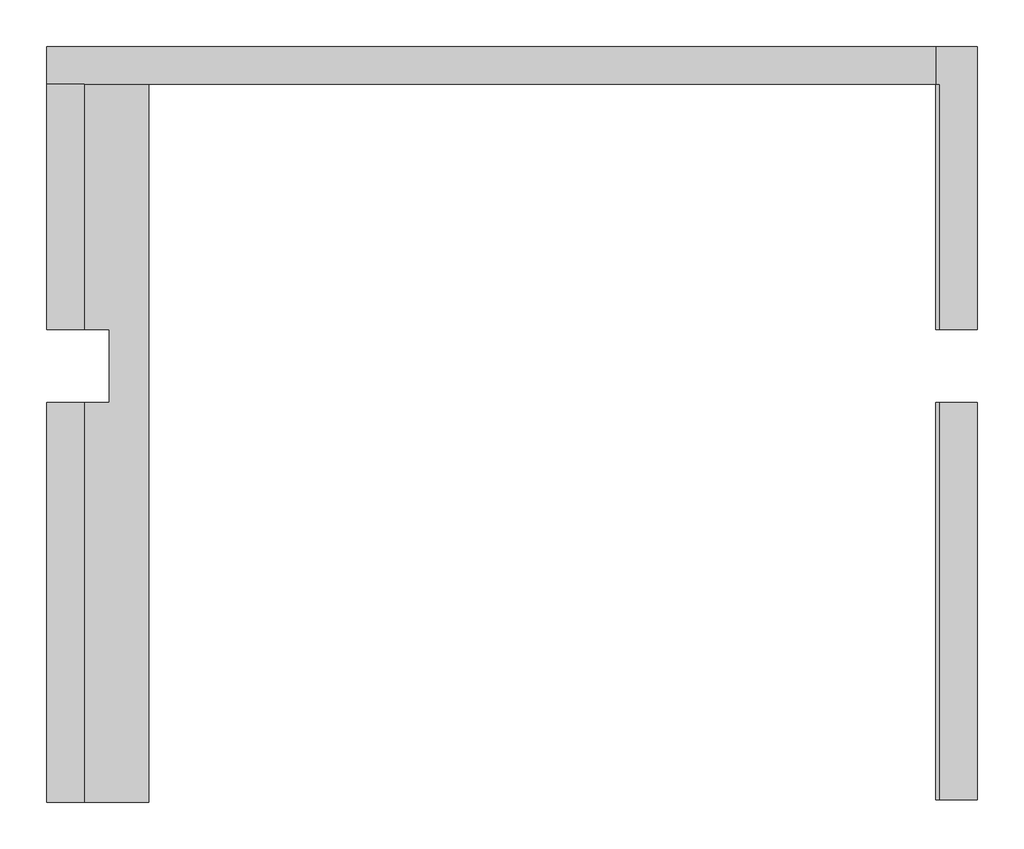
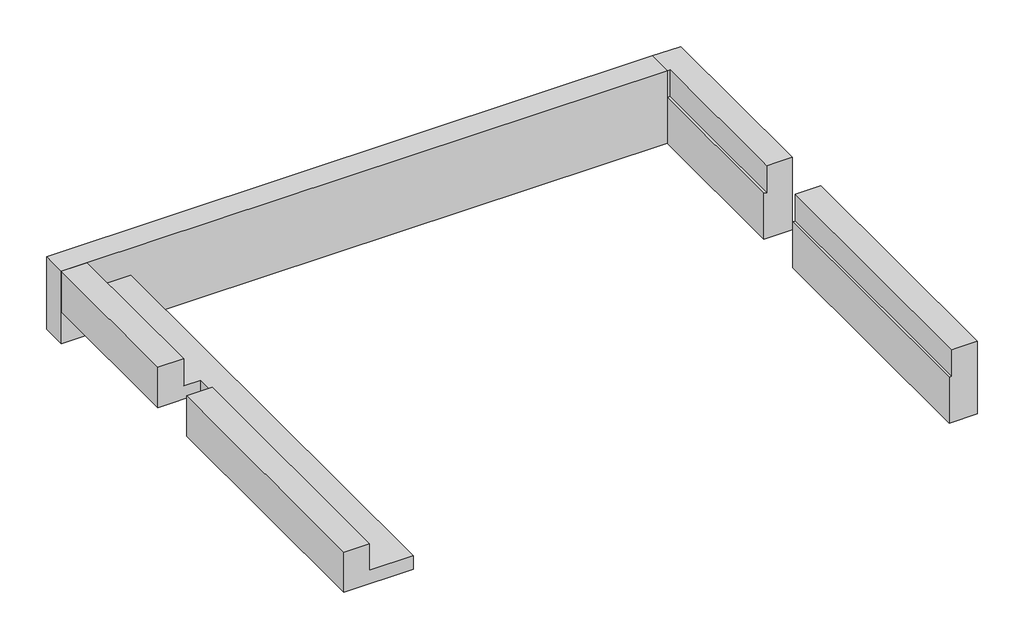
# One storey: 3 beams.
"""IFC4 building model written with IfcOpenShell, lengths in millimetres."""

from ifc_helpers import new_model, si_unit, origin, place, context, project, spatial, faceted_brep, element, save

model = new_model("IFC4")

# Units and contexts
model_context = context("Model", 3, world=origin())
ifc_project = project(units=[si_unit("LENGTHUNIT", "METRE", prefix="MILLI")], contexts=[model_context])

# Site, building, storey
site = spatial("IfcSite", under=ifc_project)
building = spatial("IfcBuilding", under=site)
storey = spatial("IfcBuildingStorey", under=building, Name="Niv +2", Elevation=5400.0)

# Beams
placement = place(None, origin())
element("IfcBeam", 1, ObjectType="FREYS POUTRE BETON : -FREYS béton 30*49 C 35/45", at=placement, inside=storey, context=model_context, shape_type="Brep", body=[
    faceted_brep([(-22905.443151, 6426.3702418, 2700.0), (-22725.443151, 6426.3702418, 2700.0), (-22725.443151, 8346.3428728, 2700.0), (-22905.443151, 8346.3428728, 2700.0), (-22415.443151, 6426.3702418, 2500.0), (-22415.443151, 6426.3702418, 2400.0), (-22415.443151, 9876.3428653, 2400.0), (-22415.443151, 9876.3428653, 2500.0), (-22905.443151, 6426.3702418, 2400.0), (-22905.443151, 8346.3428728, 2400.0), (-22605.3743903, 8346.3428728, 2400.0), (-22605.3743903, 8696.3428728, 2400.0), (-22905.443151, 8696.3428728, 2400.0), (-22905.443151, 9876.3428653, 2400.0), (-22905.443151, 6426.3702418, 2490.0), (-22905.443151, 6426.3702418, 2670.0), (-22725.443151, 6426.3702418, 2500.0), (-22725.443151, 9876.3428653, 2500.0), (-22725.443151, 8696.3428728, 2500.0), (-22605.3743903, 8696.3428728, 2500.0), (-22605.3743903, 8346.3428728, 2500.0), (-22725.443151, 8346.3428728, 2500.0), (-22725.443151, 8696.3428728, 2700.0), (-22905.443151, 8696.3428728, 2700.0), (-22725.443151, 9876.3428653, 2700.0), (-22905.443151, 9876.3428653, 2700.0)], [[[0, 1, 2, 3]], [[4, 5, 6, 7]], [[5, 8, 9, 10, 11, 12, 13, 6]], [[8, 14, 15, 0, 3, 9]], [[8, 5, 4, 16, 1, 0, 15, 14]], [[4, 7, 17, 18, 19, 20, 21, 16]], [[1, 16, 21, 2]], [[3, 2, 21, 20, 10, 9]], [[22, 23, 12, 11, 19, 18]], [[24, 22, 18, 17]], [[19, 11, 10, 20]], [[22, 24, 25, 23]], [[12, 23, 25, 13]], [[7, 6, 13, 25, 24, 17]]]),
])
element("IfcBeam", 2, ObjectType="FREYS POUTRE BETON : -FREYS béton 18*54 C 35/45", at=placement, inside=storey, context=model_context, shape_type="Brep", body=[
    faceted_brep([(-22905.443151, 10056.3428653, 2700.0), (-22905.443151, 9876.3428653, 2700.0), (-22725.443151, 9876.3428653, 2700.0), (-18635.4687193, 9876.3428653, 2700.0), (-18635.4687193, 10056.3428653, 2700.0), (-22905.443151, 9876.3428653, 2400.0), (-22905.443151, 9876.3428653, 2160.0), (-18635.4687193, 9876.3428653, 2160.0), (-18635.4687193, 9876.3428653, 2500.0), (-22905.443151, 10056.3428653, 2160.0), (-18635.4687193, 10056.3428653, 2160.0), (-22905.443151, 10056.3428653, 2490.0), (-22905.443151, 10056.3428653, 2670.0)], [[[0, 1, 2, 3, 4]], [[1, 5, 6, 7, 8, 3, 2]], [[6, 9, 10, 7]], [[9, 11, 12, 0, 4, 10]], [[1, 0, 12, 11, 9, 6, 5]], [[4, 3, 8, 7, 10]]]),
])
element("IfcBeam", 3, ObjectType="FREYS POUTRE BETON : -FREYS béton 20*54 C 35/45", at=placement, inside=storey, context=model_context, shape_type="Brep", body=[
    faceted_brep([(-18635.4687193, 6436.3428653, 2160.0), (-18435.4687193, 6436.3428653, 2160.0), (-18435.4687193, 6436.3428653, 2700.0), (-18615.4433224, 6436.3428653, 2700.0), (-18615.4433224, 6436.3428653, 2500.0), (-18635.4687193, 6436.3428653, 2500.0), (-18435.4687193, 8346.3428728, 2700.0), (-18615.4433224, 8346.3428728, 2700.0), (-18635.4687193, 8346.3428728, 2160.0), (-18435.4687193, 8346.3428728, 2160.0), (-18615.4433224, 8346.3428728, 2500.0), (-18635.4687193, 8346.3428728, 2500.0)], [[[0, 1, 2, 3, 4, 5]], [[3, 2, 6, 7]], [[1, 0, 8, 9]], [[2, 1, 9, 6]], [[5, 4, 10, 11]], [[7, 6, 9, 8, 11, 10]], [[0, 5, 11, 8]], [[4, 3, 7, 10]]]),
    faceted_brep([(-18635.4687193, 10056.3428653, 2700.0), (-18635.4687193, 10056.3428653, 2160.0), (-18635.4687193, 9876.3428653, 2160.0), (-18635.4687193, 8696.3428728, 2160.0), (-18635.4687193, 8696.3428728, 2500.0), (-18635.4687193, 9876.3428653, 2500.0), (-18635.4687193, 9876.3428653, 2700.0), (-18435.4687193, 10056.3428653, 2700.0), (-18435.4687193, 10056.3428653, 2160.0), (-18615.4433224, 9876.3428653, 2500.0), (-18615.4433224, 9876.3428653, 2700.0), (-18615.4433224, 8696.3428728, 2500.0), (-18615.4433224, 8696.3428728, 2700.0), (-18435.4687193, 8696.3428728, 2700.0), (-18435.4687193, 8696.3428728, 2160.0)], [[[0, 1, 2, 3, 4, 5, 6]], [[0, 7, 8, 1]], [[9, 10, 6, 5]], [[10, 9, 11, 12]], [[13, 12, 11, 4, 3, 14]], [[7, 0, 6, 10, 12, 13]], [[1, 8, 14, 3, 2]], [[8, 7, 13, 14]], [[9, 5, 4, 11]]]),
])

save(model, "model.ifc")
